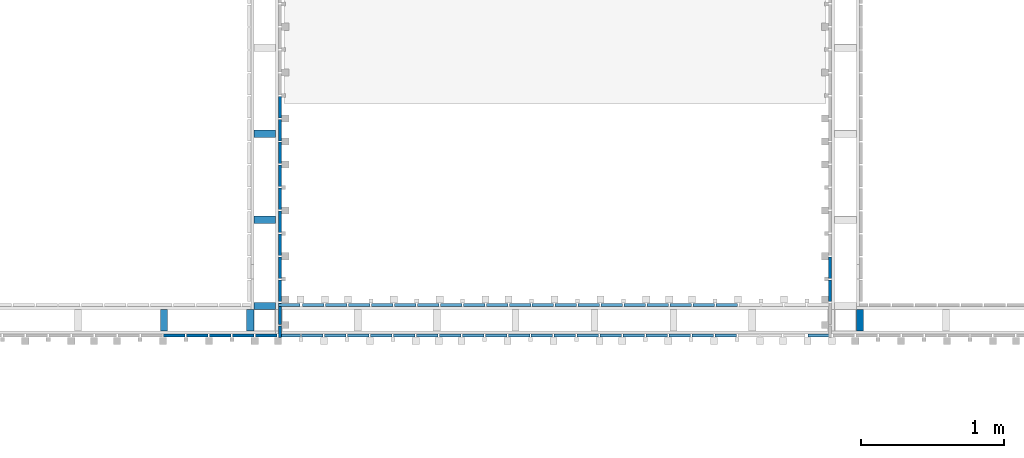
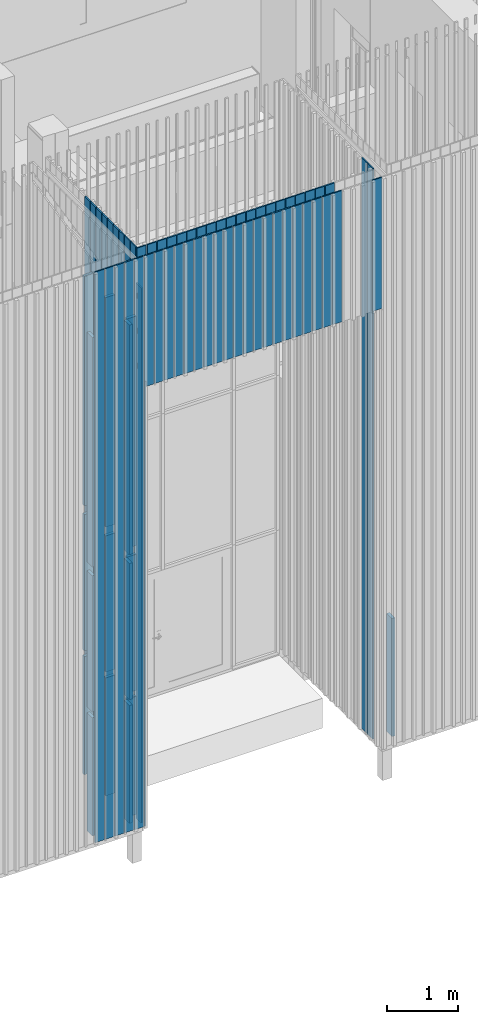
# One storey, part 140 of 390: 75 walls.
"""IFC2X3 building model written with IfcOpenShell, lengths in millimetres."""

from ifc_helpers import new_model, entity, si_unit, converted_unit, derived_unit, money_unit, direction, frame, origin_with_axes, place, context, subcontext, project, spatial, faceted_brep, material, type_object, element, save


model = new_model("IFC2X3")

# Units and contexts
model_context = context("Model", 3, precision=1e-05, world=origin_with_axes(), true_north=direction((0.0, 1.0)))
body_context = subcontext(model_context, "Body", "Model", "MODEL_VIEW")
ifc_project = project(units=[si_unit("LENGTHUNIT", "METRE", prefix="MILLI"), si_unit("AREAUNIT", "SQUARE_METRE"), si_unit("VOLUMEUNIT", "CUBIC_METRE"), converted_unit("PLANEANGLEUNIT", "DEGREE", entity("IfcPlaneAngleMeasure", 0.0174532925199), si_unit("PLANEANGLEUNIT", "RADIAN"), dimensions=[0, 0, 0, 0, 0, 0, 0]), si_unit("SOLIDANGLEUNIT", "STERADIAN"), money_unit("EUR"), converted_unit("TIMEUNIT", "Year", entity("IfcTimeMeasure", 31556926.0), si_unit("TIMEUNIT", "SECOND"), dimensions=[0, 0, 1, 0, 0, 0, 0]), si_unit("MASSUNIT", "GRAM", prefix="KILO"), si_unit("THERMODYNAMICTEMPERATUREUNIT", "DEGREE_CELSIUS"), si_unit("LUMINOUSINTENSITYUNIT", "LUMEN"), si_unit("ENERGYUNIT", "JOULE", prefix="MEGA"), derived_unit("THERMALCONDUCTANCEUNIT", [(si_unit("POWERUNIT", "WATT"), 1), (si_unit("LENGTHUNIT", "METRE"), -1), (si_unit("THERMODYNAMICTEMPERATUREUNIT", "KELVIN"), -1)]), derived_unit("SPECIFICHEATCAPACITYUNIT", [(si_unit("ENERGYUNIT", "JOULE"), 1), (si_unit("MASSUNIT", "GRAM", prefix="KILO"), -1), (si_unit("THERMODYNAMICTEMPERATUREUNIT", "KELVIN"), -1)]), derived_unit("MASSDENSITYUNIT", [(si_unit("MASSUNIT", "GRAM", prefix="KILO"), 1), (si_unit("VOLUMEUNIT", "CUBIC_METRE"), -1)])], contexts=[model_context])

# Site, building, storey
site_placement = place(None, origin_with_axes())
site = spatial("IfcSite", under=ifc_project, at=site_placement, Name="Site", CompositionType="ELEMENT")
building_placement = place(site_placement, origin_with_axes())
building = spatial("IfcBuilding", under=site, at=building_placement, Name="Building", CompositionType="ELEMENT")
storey_placement = place(building_placement, origin_with_axes())
storey = spatial("IfcBuildingStorey", under=building, at=storey_placement, Name="1 korrus", CompositionType="ELEMENT", Elevation=0.0)

# Walls
ifc_material = material(Name="Site specified")
wall_type = type_object("IfcWallType", Name="Puitfassaadi ribistik", PredefinedType="NOTDEFINED")
wall_1_placement = place(storey_placement, frame((132908.000037, 42805.0000099, 100.000000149), z_axis=(0.0, 0.0, 1.0), x_axis=(0.0, 1.0, 0.0)))
element("IfcWall", 1, at=wall_1_placement, inside=storey, type_object=wall_type, material=ifc_material, Name="Site specified", context=body_context, shape_type="Brep", body=[
    faceted_brep([(75.0, -11.0000000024, 9764.99999985), (-75.0, -11.0000000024, 9764.99999985), (-75.0, -11.0000000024, 0.0), (75.0, -11.0000000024, 0.0), (75.0, 11.0000000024, 9764.99999985), (-75.0, 11.0000000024, 9764.99999985), (-75.0, 11.0000000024, 0.0), (75.0, 11.0000000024, 0.0)], [[[0, 1, 2, 3]], [[4, 5, 1, 0]], [[1, 5, 6, 2]], [[7, 3, 2, 6]], [[4, 0, 3, 7]], [[5, 4, 7, 6]]]),
])
wall_2_placement = place(storey_placement, frame((133115.000037, 42599.0000099, 200.000000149), z_axis=(0.0, 0.0, 1.0), x_axis=(-1.0, 0.0, 0.0)))
element("IfcWall", 2, at=wall_2_placement, inside=storey, type_object=wall_type, material=ifc_material, Name="Site specified", context=body_context, shape_type="Brep", body=[
    faceted_brep([(25.0, -74.9999999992, 2019.99999987), (-25.0, -74.9999999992, 2019.99999987), (-25.0, -74.9999999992, 0.0), (25.0, -74.9999999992, 0.0), (25.0, 74.9999999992, 2019.99999987), (-25.0, 74.9999999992, 2019.99999987), (-25.0, 74.9999999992, 0.0), (25.0, 74.9999999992, 0.0)], [[[0, 1, 2, 3]], [[4, 5, 1, 0]], [[1, 5, 6, 2]], [[7, 3, 2, 6]], [[4, 0, 3, 7]], [[5, 4, 7, 6]]]),
])
wall_3_placement = place(storey_placement, frame((132908.000037, 42965.0000099, 100.000000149), z_axis=(0.0, 0.0, 1.0), x_axis=(0.0, 1.0, 0.0)))
element("IfcWall", 3, at=wall_3_placement, inside=storey, type_object=wall_type, material=ifc_material, Name="Site specified", context=body_context, shape_type="Brep", body=[
    faceted_brep([(75.0, -11.0000000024, 9764.99999985), (-75.0, -11.0000000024, 9764.99999985), (-75.0, -11.0000000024, 0.0), (75.0, -11.0000000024, 0.0), (75.0, 11.0000000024, 9764.99999985), (-75.0, 11.0000000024, 9764.99999985), (-75.0, 11.0000000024, 0.0), (75.0, 11.0000000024, 0.0)], [[[0, 1, 2, 3]], [[4, 5, 1, 0]], [[1, 5, 6, 2]], [[7, 3, 2, 6]], [[4, 0, 3, 7]], [[5, 4, 7, 6]]]),
])
for number, where, z_axis, x_axis, name in (
    (4, (131858.999993, 42492.0000615, 7620.0), (0.0, 0.0, 1.0), (-1.0, 0.0, 0.0), "Site specified"),
    (5, (131698.999993, 42492.0000615, 7620.0), (0.0, 0.0, 1.0), (-1.0, 0.0, 0.0), "Site specified"),
    (6, (132178.999993, 42492.000054, 7620.0), (0.0, 0.0, 1.0), (-1.0, 0.0, 0.0), "Site specified"),
    (7, (132828.999993, 42492.0000389, 7620.0), (0.0, 0.0, 1.0), (-1.0, 0.0, 0.0), "Site specified"),
):
    element("IfcWall", number, at=place(storey_placement, frame(where, z_axis=z_axis, x_axis=x_axis)), inside=storey, type_object=wall_type, material=ifc_material, Name=name, context=body_context, shape_type="Brep", body=[
        faceted_brep([(75.0, -11.0000000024, 2245.0), (-75.0, -11.0000000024, 2245.0), (-75.0, -11.0000000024, 0.0), (75.0, -11.0000000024, 0.0), (75.0, 11.0000000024, 2245.0), (-75.0, 11.0000000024, 2245.0), (-75.0, 11.0000000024, 0.0), (75.0, 11.0000000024, 0.0)], [[[0, 1, 2, 3]], [[4, 5, 1, 0]], [[1, 5, 6, 2]], [[7, 3, 2, 6]], [[4, 0, 3, 7]], [[5, 4, 7, 6]]]),
    ])
wall_4_placement = place(storey_placement, frame((128964.999993, 42699.000034, 4800.00000001), z_axis=(0.0, 0.0, 1.0), x_axis=(0.0, 1.0, 0.0)))
element("IfcWall", 8, at=wall_4_placement, inside=storey, type_object=wall_type, material=ifc_material, Name="Site specified", context=body_context, shape_type="Brep", body=[
    faceted_brep([(25.0, -74.9999999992, 3927.99999761), (-25.0, -74.9999999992, 3927.99999761), (-25.0, -74.9999999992, 0.0), (25.0, -74.9999999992, 0.0), (25.0, 74.9999999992, 3927.99999761), (-25.0, 74.9999999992, 3927.99999761), (-25.0, 74.9999999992, 0.0), (25.0, 74.9999999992, 0.0)], [[[0, 1, 2, 3]], [[4, 5, 1, 0]], [[1, 5, 6, 2]], [[7, 3, 2, 6]], [[4, 0, 3, 7]], [[5, 4, 7, 6]]]),
])
wall_5_placement = place(storey_placement, frame((128964.999994, 43299.0000337, 200.000000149), z_axis=(0.0, 0.0, 1.0), x_axis=(0.0, 1.0, 0.0)))
element("IfcWall", 9, at=wall_5_placement, inside=storey, type_object=wall_type, material=ifc_material, Name="Site specified", context=body_context, shape_type="Brep", body=[
    faceted_brep([(25.0, -74.9999999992, 2019.99999987), (-25.0, -74.9999999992, 2019.99999987), (-25.0, -74.9999999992, 0.0), (25.0, -74.9999999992, 0.0), (25.0, 74.9999999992, 2019.99999987), (-25.0, 74.9999999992, 2019.99999987), (-25.0, 74.9999999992, 0.0), (25.0, 74.9999999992, 0.0)], [[[0, 1, 2, 3]], [[4, 5, 1, 0]], [[1, 5, 6, 2]], [[7, 3, 2, 6]], [[4, 0, 3, 7]], [[5, 4, 7, 6]]]),
])
wall_6_placement = place(storey_placement, frame((128964.999994, 43299.0000337, 2320.00000001), z_axis=(0.0, 0.0, 1.0), x_axis=(0.0, 1.0, 0.0)))
element("IfcWall", 10, at=wall_6_placement, inside=storey, type_object=wall_type, material=ifc_material, Name="Site specified", context=body_context, shape_type="Brep", body=[
    faceted_brep([(25.0, -74.9999999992, 2330.0), (-25.0, -74.9999999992, 2330.0), (-25.0, -74.9999999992, 0.0), (25.0, -74.9999999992, 0.0), (25.0, 74.9999999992, 2330.0), (-25.0, 74.9999999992, 2330.0), (-25.0, 74.9999999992, 0.0), (25.0, 74.9999999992, 0.0)], [[[0, 1, 2, 3]], [[4, 5, 1, 0]], [[1, 5, 6, 2]], [[7, 3, 2, 6]], [[4, 0, 3, 7]], [[5, 4, 7, 6]]]),
])
wall_7_placement = place(storey_placement, frame((128964.999994, 43299.0000337, 4800.00000001), z_axis=(0.0, 0.0, 1.0), x_axis=(0.0, 1.0, 0.0)))
element("IfcWall", 11, at=wall_7_placement, inside=storey, type_object=wall_type, material=ifc_material, Name="Site specified", context=body_context, shape_type="Brep", body=[
    faceted_brep([(25.0, -74.9999999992, 3927.99999761), (-25.0, -74.9999999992, 3927.99999761), (-25.0, -74.9999999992, 0.0), (25.0, -74.9999999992, 0.0), (25.0, 74.9999999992, 3927.99999761), (-25.0, 74.9999999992, 3927.99999761), (-25.0, 74.9999999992, 0.0), (25.0, 74.9999999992, 0.0)], [[[0, 1, 2, 3]], [[4, 5, 1, 0]], [[1, 5, 6, 2]], [[7, 3, 2, 6]], [[4, 0, 3, 7]], [[5, 4, 7, 6]]]),
])
wall_8_placement = place(storey_placement, frame((128964.999994, 43899.0000337, 200.000000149), z_axis=(0.0, 0.0, 1.0), x_axis=(0.0, 1.0, 0.0)))
element("IfcWall", 12, at=wall_8_placement, inside=storey, type_object=wall_type, material=ifc_material, Name="Site specified", context=body_context, shape_type="Brep", body=[
    faceted_brep([(25.0, -74.9999999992, 2019.99999987), (-25.0, -74.9999999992, 2019.99999987), (-25.0, -74.9999999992, 0.0), (25.0, -74.9999999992, 0.0), (25.0, 74.9999999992, 2019.99999987), (-25.0, 74.9999999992, 2019.99999987), (-25.0, 74.9999999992, 0.0), (25.0, 74.9999999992, 0.0)], [[[0, 1, 2, 3]], [[4, 5, 1, 0]], [[1, 5, 6, 2]], [[7, 3, 2, 6]], [[4, 0, 3, 7]], [[5, 4, 7, 6]]]),
])
wall_9_placement = place(storey_placement, frame((128964.999994, 43899.0000337, 2320.00000001), z_axis=(0.0, 0.0, 1.0), x_axis=(0.0, 1.0, 0.0)))
element("IfcWall", 13, at=wall_9_placement, inside=storey, type_object=wall_type, material=ifc_material, Name="Site specified", context=body_context, shape_type="Brep", body=[
    faceted_brep([(25.0, -74.9999999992, 2330.0), (-25.0, -74.9999999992, 2330.0), (-25.0, -74.9999999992, 0.0), (25.0, -74.9999999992, 0.0), (25.0, 74.9999999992, 2330.0), (-25.0, 74.9999999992, 2330.0), (-25.0, 74.9999999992, 0.0), (25.0, 74.9999999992, 0.0)], [[[0, 1, 2, 3]], [[4, 5, 1, 0]], [[1, 5, 6, 2]], [[7, 3, 2, 6]], [[4, 0, 3, 7]], [[5, 4, 7, 6]]]),
])
wall_10_placement = place(storey_placement, frame((128964.999994, 43899.0000337, 4800.00000001), z_axis=(0.0, 0.0, 1.0), x_axis=(0.0, 1.0, 0.0)))
element("IfcWall", 14, at=wall_10_placement, inside=storey, type_object=wall_type, material=ifc_material, Name="Site specified", context=body_context, shape_type="Brep", body=[
    faceted_brep([(25.0, -74.9999999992, 3927.99999761), (-25.0, -74.9999999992, 3927.99999761), (-25.0, -74.9999999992, 0.0), (25.0, -74.9999999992, 0.0), (25.0, 74.9999999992, 3927.99999761), (-25.0, 74.9999999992, 3927.99999761), (-25.0, 74.9999999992, 0.0), (25.0, 74.9999999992, 0.0)], [[[0, 1, 2, 3]], [[4, 5, 1, 0]], [[1, 5, 6, 2]], [[7, 3, 2, 6]], [[4, 0, 3, 7]], [[5, 4, 7, 6]]]),
])
wall_11_placement = place(storey_placement, frame((128264.999994, 42599.0000344, 200.000000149), z_axis=(0.0, 0.0, 1.0), x_axis=(-1.0, 0.0, 0.0)))
element("IfcWall", 15, at=wall_11_placement, inside=storey, type_object=wall_type, material=ifc_material, Name="Site specified", context=body_context, shape_type="Brep", body=[
    faceted_brep([(25.0, -74.9999999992, 2019.99999987), (-25.0, -74.9999999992, 2019.99999987), (-25.0, -74.9999999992, 0.0), (25.0, -74.9999999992, 0.0), (25.0, 74.9999999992, 2019.99999987), (-25.0, 74.9999999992, 2019.99999987), (-25.0, 74.9999999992, 0.0), (25.0, 74.9999999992, 0.0)], [[[0, 1, 2, 3]], [[4, 5, 1, 0]], [[1, 5, 6, 2]], [[7, 3, 2, 6]], [[4, 0, 3, 7]], [[5, 4, 7, 6]]]),
])
wall_12_placement = place(storey_placement, frame((128264.999994, 42599.0000344, 2320.00000001), z_axis=(0.0, 0.0, 1.0), x_axis=(-1.0, 0.0, 0.0)))
element("IfcWall", 16, at=wall_12_placement, inside=storey, type_object=wall_type, material=ifc_material, Name="Site specified", context=body_context, shape_type="Brep", body=[
    faceted_brep([(25.0, -74.9999999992, 2330.0), (-25.0, -74.9999999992, 2330.0), (-25.0, -74.9999999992, 0.0), (25.0, -74.9999999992, 0.0), (25.0, 74.9999999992, 2330.0), (-25.0, 74.9999999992, 2330.0), (-25.0, 74.9999999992, 0.0), (25.0, 74.9999999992, 0.0)], [[[0, 1, 2, 3]], [[4, 5, 1, 0]], [[1, 5, 6, 2]], [[7, 3, 2, 6]], [[4, 0, 3, 7]], [[5, 4, 7, 6]]]),
])
wall_13_placement = place(storey_placement, frame((128264.999994, 42599.0000344, 4800.00000001), z_axis=(0.0, 0.0, 1.0), x_axis=(-1.0, 0.0, 0.0)))
element("IfcWall", 17, at=wall_13_placement, inside=storey, type_object=wall_type, material=ifc_material, Name="Site specified", context=body_context, shape_type="Brep", body=[
    faceted_brep([(25.0, -74.9999999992, 3927.99999761), (-25.0, -74.9999999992, 3927.99999761), (-25.0, -74.9999999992, 0.0), (25.0, -74.9999999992, 0.0), (25.0, 74.9999999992, 3927.99999761), (-25.0, 74.9999999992, 3927.99999761), (-25.0, 74.9999999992, 0.0), (25.0, 74.9999999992, 0.0)], [[[0, 1, 2, 3]], [[4, 5, 1, 0]], [[1, 5, 6, 2]], [[7, 3, 2, 6]], [[4, 0, 3, 7]], [[5, 4, 7, 6]]]),
])
wall_14_placement = place(storey_placement, frame((128864.999994, 42599.000034, 200.000000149), z_axis=(0.0, 0.0, 1.0), x_axis=(-1.0, 0.0, 0.0)))
element("IfcWall", 18, at=wall_14_placement, inside=storey, type_object=wall_type, material=ifc_material, Name="Site specified", context=body_context, shape_type="Brep", body=[
    faceted_brep([(25.0, -74.9999999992, 2019.99999987), (-25.0, -74.9999999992, 2019.99999987), (-25.0, -74.9999999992, 0.0), (25.0, -74.9999999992, 0.0), (25.0, 74.9999999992, 2019.99999987), (-25.0, 74.9999999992, 2019.99999987), (-25.0, 74.9999999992, 0.0), (25.0, 74.9999999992, 0.0)], [[[0, 1, 2, 3]], [[4, 5, 1, 0]], [[1, 5, 6, 2]], [[7, 3, 2, 6]], [[4, 0, 3, 7]], [[5, 4, 7, 6]]]),
])
wall_15_placement = place(storey_placement, frame((128864.999994, 42599.000034, 2320.00000001), z_axis=(0.0, 0.0, 1.0), x_axis=(-1.0, 0.0, 0.0)))
element("IfcWall", 19, at=wall_15_placement, inside=storey, type_object=wall_type, material=ifc_material, Name="Site specified", context=body_context, shape_type="Brep", body=[
    faceted_brep([(25.0, -74.9999999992, 2330.0), (-25.0, -74.9999999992, 2330.0), (-25.0, -74.9999999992, 0.0), (25.0, -74.9999999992, 0.0), (25.0, 74.9999999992, 2330.0), (-25.0, 74.9999999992, 2330.0), (-25.0, 74.9999999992, 0.0), (25.0, 74.9999999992, 0.0)], [[[0, 1, 2, 3]], [[4, 5, 1, 0]], [[1, 5, 6, 2]], [[7, 3, 2, 6]], [[4, 0, 3, 7]], [[5, 4, 7, 6]]]),
])
wall_16_placement = place(storey_placement, frame((128864.999994, 42599.000034, 4800.00000001), z_axis=(0.0, 0.0, 1.0), x_axis=(-1.0, 0.0, 0.0)))
element("IfcWall", 20, at=wall_16_placement, inside=storey, type_object=wall_type, material=ifc_material, Name="Site specified", context=body_context, shape_type="Brep", body=[
    faceted_brep([(25.0, -74.9999999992, 3927.99999761), (-25.0, -74.9999999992, 3927.99999761), (-25.0, -74.9999999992, 0.0), (25.0, -74.9999999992, 0.0), (25.0, 74.9999999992, 3927.99999761), (-25.0, 74.9999999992, 3927.99999761), (-25.0, 74.9999999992, 0.0), (25.0, 74.9999999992, 0.0)], [[[0, 1, 2, 3]], [[4, 5, 1, 0]], [[1, 5, 6, 2]], [[7, 3, 2, 6]], [[4, 0, 3, 7]], [[5, 4, 7, 6]]]),
])
for number, where, z_axis, x_axis, name in (
    (21, (130745.999993, 42706.0000526, 7620.00000604), (0.0, 0.0, 1.0), (1.0, 0.0, 0.0), "Site specified"),
    (22, (130905.999993, 42706.0000526, 7620.00000604), (0.0, 0.0, 1.0), (1.0, 0.0, 0.0), "Site specified"),
    (23, (131225.999993, 42706.0000526, 7620.00000604), (0.0, 0.0, 1.0), (1.0, 0.0, 0.0), "Site specified"),
    (24, (131065.999993, 42706.0000526, 7620.00000604), (0.0, 0.0, 1.0), (1.0, 0.0, 0.0), "Site specified"),
    (25, (131385.999993, 42706.0000526, 7620.00000604), (0.0, 0.0, 1.0), (1.0, 0.0, 0.0), "Site specified"),
):
    element("IfcWall", number, at=place(storey_placement, frame(where, z_axis=z_axis, x_axis=x_axis)), inside=storey, type_object=wall_type, material=ifc_material, Name=name, context=body_context, shape_type="Brep", body=[
        faceted_brep([(75.0000000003, -11.0, 2245.0), (-74.9999999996, -11.0000000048, 2245.0), (-74.9999999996, -11.0000000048, 0.0), (75.0000000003, -11.0, 0.0), (74.9999999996, 11.0000000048, 2245.0), (-75.0000000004, 11.0, 2245.0), (-75.0000000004, 11.0, 0.0), (74.9999999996, 11.0000000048, 0.0)], [[[0, 1, 2, 3]], [[4, 5, 1, 0]], [[1, 5, 6, 2]], [[7, 3, 2, 6]], [[4, 0, 3, 7]], [[5, 4, 7, 6]]]),
    ])
wall_17_placement = place(storey_placement, frame((128964.999993, 42699.0000105, 200.000000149), z_axis=(0.0, 0.0, 1.0), x_axis=(0.0, 1.0, 0.0)))
element("IfcWall", 26, at=wall_17_placement, inside=storey, type_object=wall_type, material=ifc_material, Name="Site specified", context=body_context, shape_type="Brep", body=[
    faceted_brep([(25.0, -74.9999999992, 2019.99999987), (-25.0, -74.9999999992, 2019.99999987), (-25.0, -74.9999999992, 0.0), (25.0, -74.9999999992, 0.0), (25.0, 74.9999999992, 2019.99999987), (-25.0, 74.9999999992, 2019.99999987), (-25.0, 74.9999999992, 0.0), (25.0, 74.9999999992, 0.0)], [[[0, 1, 2, 3]], [[4, 5, 1, 0]], [[1, 5, 6, 2]], [[7, 3, 2, 6]], [[4, 0, 3, 7]], [[5, 4, 7, 6]]]),
])
wall_18_placement = place(storey_placement, frame((132018.999993, 42492.000054, 7620.0), z_axis=(0.0, 0.0, 1.0), x_axis=(-1.0, 0.0, 0.0)))
element("IfcWall", 27, at=wall_18_placement, inside=storey, type_object=wall_type, material=ifc_material, Name="Site specified", context=body_context, shape_type="Brep", body=[
    faceted_brep([(75.0, -11.0000000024, 2245.0), (-75.0, -11.0000000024, 2245.0), (-75.0, -11.0000000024, 0.0), (75.0, -11.0000000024, 0.0), (75.0, 11.0000000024, 2245.0), (-75.0, 11.0000000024, 2245.0), (-75.0, 11.0000000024, 0.0), (75.0, 11.0000000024, 0.0)], [[[0, 1, 2, 3]], [[4, 5, 1, 0]], [[1, 5, 6, 2]], [[7, 3, 2, 6]], [[4, 0, 3, 7]], [[5, 4, 7, 6]]]),
])
wall_19_placement = place(storey_placement, frame((128964.999994, 42699.000034, 2320.00000001), z_axis=(0.0, 0.0, 1.0), x_axis=(0.0, 1.0, 0.0)))
element("IfcWall", 28, at=wall_19_placement, inside=storey, type_object=wall_type, material=ifc_material, Name="Site specified", context=body_context, shape_type="Brep", body=[
    faceted_brep([(25.0, -74.9999999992, 2330.0), (-25.0, -74.9999999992, 2330.0), (-25.0, -74.9999999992, 0.0), (25.0, -74.9999999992, 0.0), (25.0, 74.9999999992, 2330.0), (-25.0, 74.9999999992, 2330.0), (-25.0, 74.9999999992, 0.0), (25.0, 74.9999999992, 0.0)], [[[0, 1, 2, 3]], [[4, 5, 1, 0]], [[1, 5, 6, 2]], [[7, 3, 2, 6]], [[4, 0, 3, 7]], [[5, 4, 7, 6]]]),
])
for number, where, z_axis, x_axis, name in (
    (29, (131545.999993, 42706.0000451, 7620.00000604), (0.0, 0.0, 1.0), (1.0, 0.0, 0.0), "Site specified"),
    (30, (131705.999993, 42706.0000451, 7620.00000604), (0.0, 0.0, 1.0), (1.0, 0.0, 0.0), "Site specified"),
    (31, (132025.999993, 42706.0000376, 7620.00000604), (0.0, 0.0, 1.0), (1.0, 0.0, 0.0), "Site specified"),
    (32, (131865.999993, 42706.0000376, 7620.00000604), (0.0, 0.0, 1.0), (1.0, 0.0, 0.0), "Site specified"),
    (33, (132185.999993, 42706.0000301, 7620.00000604), (0.0, 0.0, 1.0), (1.0, 0.0, 0.0), "Site specified"),
):
    element("IfcWall", number, at=place(storey_placement, frame(where, z_axis=z_axis, x_axis=x_axis)), inside=storey, type_object=wall_type, material=ifc_material, Name=name, context=body_context, shape_type="Brep", body=[
        faceted_brep([(75.0000000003, -11.0, 2245.0), (-74.9999999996, -11.0000000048, 2245.0), (-74.9999999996, -11.0000000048, 0.0), (75.0000000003, -11.0, 0.0), (74.9999999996, 11.0000000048, 2245.0), (-75.0000000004, 11.0, 2245.0), (-75.0000000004, 11.0, 0.0), (74.9999999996, 11.0000000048, 0.0)], [[[0, 1, 2, 3]], [[4, 5, 1, 0]], [[1, 5, 6, 2]], [[7, 3, 2, 6]], [[4, 0, 3, 7]], [[5, 4, 7, 6]]]),
    ])
for number, where, z_axis, x_axis, name in (
    (34, (131218.999994, 42491.9999965, 7620.0), (0.0, 0.0, 1.0), (-1.0, 0.0, 0.0), "Site specified"),
    (35, (131378.999994, 42491.9999965, 7620.0), (0.0, 0.0, 1.0), (-1.0, 0.0, 0.0), "Site specified"),
    (36, (129298.999994, 42492.0000265, 7620.0), (0.0, 0.0, 1.0), (-1.0, 0.0, 0.0), "Site specified"),
    (37, (129458.999994, 42492.0000265, 7620.0), (0.0, 0.0, 1.0), (-1.0, 0.0, 0.0), "Site specified"),
    (38, (129618.999994, 42492.000019, 7620.0), (0.0, 0.0, 1.0), (-1.0, 0.0, 0.0), "Site specified"),
    (39, (129138.999994, 42492.000034, 7620.0), (0.0, 0.0, 1.0), (-1.0, 0.0, 0.0), "Site specified"),
    (40, (129778.999994, 42492.000019, 7620.0), (0.0, 0.0, 1.0), (-1.0, 0.0, 0.0), "Site specified"),
    (41, (129938.999994, 42492.0000115, 7620.0), (0.0, 0.0, 1.0), (-1.0, 0.0, 0.0), "Site specified"),
    (42, (130098.999994, 42492.0000115, 7620.0), (0.0, 0.0, 1.0), (-1.0, 0.0, 0.0), "Site specified"),
    (43, (130258.999994, 42492.000004, 7620.0), (0.0, 0.0, 1.0), (-1.0, 0.0, 0.0), "Site specified"),
    (44, (131058.999994, 42491.9999965, 7620.0), (0.0, 0.0, 1.0), (-1.0, 0.0, 0.0), "Site specified"),
    (45, (130898.999994, 42491.9999965, 7620.0), (0.0, 0.0, 1.0), (-1.0, 0.0, 0.0), "Site specified"),
    (46, (130418.999994, 42492.000004, 7620.0), (0.0, 0.0, 1.0), (-1.0, 0.0, 0.0), "Site specified"),
    (47, (130578.999994, 42491.9999965, 7620.0), (0.0, 0.0, 1.0), (-1.0, 0.0, 0.0), "Site specified"),
    (48, (130738.999994, 42491.9999965, 7620.0), (0.0, 0.0, 1.0), (-1.0, 0.0, 0.0), "Site specified"),
    (49, (131538.999993, 42492.000069, 7620.0), (0.0, 0.0, 1.0), (-1.0, 0.0, 0.0), "Site specified"),
):
    element("IfcWall", number, at=place(storey_placement, frame(where, z_axis=z_axis, x_axis=x_axis)), inside=storey, type_object=wall_type, material=ifc_material, Name=name, context=body_context, shape_type="Brep", body=[
        faceted_brep([(75.0, -11.0000000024, 2245.0), (-75.0, -11.0000000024, 2245.0), (-75.0, -11.0000000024, 0.0), (75.0, -11.0000000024, 0.0), (75.0, 11.0000000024, 2245.0), (-75.0, 11.0000000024, 2245.0), (-75.0, 11.0000000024, 0.0), (75.0, 11.0000000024, 0.0)], [[[0, 1, 2, 3]], [[4, 5, 1, 0]], [[1, 5, 6, 2]], [[7, 3, 2, 6]], [[4, 0, 3, 7]], [[5, 4, 7, 6]]]),
    ])
wall_20_placement = place(storey_placement, frame((129071.999994, 42645.0000337, 100.000000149), z_axis=(0.0, 0.0, 1.0), x_axis=(0.0, 1.0, 0.0)))
element("IfcWall", 50, at=wall_20_placement, inside=storey, type_object=wall_type, material=ifc_material, Name="Site specified", context=body_context, shape_type="Brep", body=[
    faceted_brep([(-75.0, 11.0000000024, 9160.00000589), (75.0, 11.0000000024, 9160.00000589), (75.0, 11.0000000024, 0.0), (-75.0, 11.0000000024, 0.0), (28.9999765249, 11.0000000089, 9010.00000589), (28.9999765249, 11.0000000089, 8915.00000589), (49.9999765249, 11.0000000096, 8915.00000589), (49.9999765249, 11.0000000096, 9010.00000589), (28.9999761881, 11.0000000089, 8410.00000589), (28.9999761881, 11.0000000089, 8315.00000589), (49.9999761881, 11.0000000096, 8315.00000589), (49.9999761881, 11.0000000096, 8410.00000589), (28.9999761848, 11.0000000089, 7810.00000589), (28.9999761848, 11.0000000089, 7715.00000589), (49.9999761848, 11.0000000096, 7715.00000589), (49.9999761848, 11.0000000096, 7810.00000589), (-75.0, -11.0000000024, 9160.00000589), (75.0, -11.0000000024, 9160.00000589), (75.0, -11.0000000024, 0.0), (-75.0, -11.0000000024, 0.0), (28.9999765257, -11.0000000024, 9010.00000589), (28.9999765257, -11.0000000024, 8915.00000589), (49.9999765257, -11.0000000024, 8915.00000589), (49.9999765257, -11.0000000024, 9010.00000589), (28.9999761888, -11.0000000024, 8410.00000589), (28.9999761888, -11.0000000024, 8315.00000589), (49.9999761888, -11.0000000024, 8315.00000589), (49.9999761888, -11.0000000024, 8410.00000589), (28.9999761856, -11.0000000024, 7810.00000589), (28.9999761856, -11.0000000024, 7715.00000589), (49.9999761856, -11.0000000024, 7715.00000589), (49.9999761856, -11.0000000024, 7810.00000589)], [[[0, 1, 2, 3], [4, 5, 6, 7], [8, 9, 10, 11], [12, 13, 14, 15]], [[1, 0, 16, 17]], [[1, 17, 18, 2]], [[2, 18, 19, 3]], [[16, 0, 3, 19]], [[4, 20, 21, 5]], [[5, 21, 22, 6]], [[6, 22, 23, 7]], [[7, 23, 20, 4]], [[8, 24, 25, 9]], [[9, 25, 26, 10]], [[10, 26, 27, 11]], [[11, 27, 24, 8]], [[12, 28, 29, 13]], [[13, 29, 30, 14]], [[14, 30, 31, 15]], [[15, 31, 28, 12]], [[17, 16, 19, 18], [22, 21, 20, 23], [26, 25, 24, 27], [30, 29, 28, 31]]]),
])
for number, where, z_axis, x_axis, name in (
    (51, (129071.999994, 42805.0000337, 100.000000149), (0.0, 0.0, 1.0), (0.0, 1.0, 0.0), "Site specified"),
    (52, (129071.999994, 42965.0000337, 100.000000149), (0.0, 0.0, 1.0), (0.0, 1.0, 0.0), "Site specified"),
    (53, (129071.999994, 43125.0000337, 100.000000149), (0.0, 0.0, 1.0), (0.0, 1.0, 0.0), "Site specified"),
):
    element("IfcWall", number, at=place(storey_placement, frame(where, z_axis=z_axis, x_axis=x_axis)), inside=storey, type_object=wall_type, material=ifc_material, Name=name, context=body_context, shape_type="Brep", body=[
        faceted_brep([(75.0, -11.0000000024, 9764.99999985), (-75.0, -11.0000000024, 9764.99999985), (-75.0, -11.0000000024, 0.0), (75.0, -11.0000000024, 0.0), (75.0, 11.0000000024, 9764.99999985), (-75.0, 11.0000000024, 9764.99999985), (-75.0, 11.0000000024, 0.0), (75.0, 11.0000000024, 0.0)], [[[0, 1, 2, 3]], [[4, 5, 1, 0]], [[1, 5, 6, 2]], [[7, 3, 2, 6]], [[4, 0, 3, 7]], [[5, 4, 7, 6]]]),
    ])
for number, where, z_axis, x_axis, name in (
    (54, (129135.999993, 42706.0000102, 7620.00000604), (0.0, 0.0, 1.0), (1.0, 0.0, 0.0), "Site specified"),
    (55, (129305.999993, 42706.0000102, 7620.00000604), (0.0, 0.0, 1.0), (1.0, 0.0, 0.0), "Site specified"),
    (56, (129465.999993, 42706.0000027, 7620.00000604), (0.0, 0.0, 1.0), (1.0, 0.0, 0.0), "Site specified"),
):
    element("IfcWall", number, at=place(storey_placement, frame(where, z_axis=z_axis, x_axis=x_axis)), inside=storey, type_object=wall_type, material=ifc_material, Name=name, context=body_context, shape_type="Brep", body=[
        faceted_brep([(75.0000000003, -11.0, 2245.0), (-74.9999999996, -11.0000000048, 2245.0), (-74.9999999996, -11.0000000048, 0.0), (75.0000000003, -11.0, 0.0), (74.9999999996, 11.0000000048, 2245.0), (-75.0000000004, 11.0, 2245.0), (-75.0000000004, 11.0, 0.0), (74.9999999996, 11.0000000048, 0.0)], [[[0, 1, 2, 3]], [[4, 5, 1, 0]], [[1, 5, 6, 2]], [[7, 3, 2, 6]], [[4, 0, 3, 7]], [[5, 4, 7, 6]]]),
    ])
wall_21_placement = place(storey_placement, frame((129071.999994, 43285.0000337, 100.000000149), z_axis=(0.0, 0.0, 1.0), x_axis=(0.0, 1.0, 0.0)))
element("IfcWall", 57, at=wall_21_placement, inside=storey, type_object=wall_type, material=ifc_material, Name="Site specified", context=body_context, shape_type="Brep", body=[
    faceted_brep([(75.0, -11.0000000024, 9764.99999985), (-75.0, -11.0000000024, 9764.99999985), (-75.0, -11.0000000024, 0.0), (75.0, -11.0000000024, 0.0), (75.0, 11.0000000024, 9764.99999985), (-75.0, 11.0000000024, 9764.99999985), (-75.0, 11.0000000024, 0.0), (75.0, 11.0000000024, 0.0)], [[[0, 1, 2, 3]], [[4, 5, 1, 0]], [[1, 5, 6, 2]], [[7, 3, 2, 6]], [[4, 0, 3, 7]], [[5, 4, 7, 6]]]),
])
for number, where, z_axis, x_axis, name in (
    (58, (130265.999993, 42705.9999877, 7620.00000604), (0.0, 0.0, 1.0), (1.0, 0.0, 0.0), "Site specified"),
    (59, (129625.999993, 42706.0000027, 7620.00000604), (0.0, 0.0, 1.0), (1.0, 0.0, 0.0), "Site specified"),
    (60, (129785.999993, 42705.9999952, 7620.00000604), (0.0, 0.0, 1.0), (1.0, 0.0, 0.0), "Site specified"),
    (61, (130425.999993, 42705.9999802, 7620.00000604), (0.0, 0.0, 1.0), (1.0, 0.0, 0.0), "Site specified"),
    (62, (129945.999993, 42705.9999952, 7620.00000604), (0.0, 0.0, 1.0), (1.0, 0.0, 0.0), "Site specified"),
):
    element("IfcWall", number, at=place(storey_placement, frame(where, z_axis=z_axis, x_axis=x_axis)), inside=storey, type_object=wall_type, material=ifc_material, Name=name, context=body_context, shape_type="Brep", body=[
        faceted_brep([(75.0000000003, -11.0, 2245.0), (-74.9999999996, -11.0000000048, 2245.0), (-74.9999999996, -11.0000000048, 0.0), (75.0000000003, -11.0, 0.0), (74.9999999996, 11.0000000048, 2245.0), (-75.0000000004, 11.0, 2245.0), (-75.0000000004, 11.0, 0.0), (74.9999999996, 11.0000000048, 0.0)], [[[0, 1, 2, 3]], [[4, 5, 1, 0]], [[1, 5, 6, 2]], [[7, 3, 2, 6]], [[4, 0, 3, 7]], [[5, 4, 7, 6]]]),
    ])
for number, where, z_axis, x_axis, name in (
    (63, (129071.999994, 43605.0000337, 100.000000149), (0.0, 0.0, 1.0), (0.0, 1.0, 0.0), "Site specified"),
    (64, (129071.999994, 43445.0000337, 100.000000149), (0.0, 0.0, 1.0), (0.0, 1.0, 0.0), "Site specified"),
    (65, (129071.999994, 44085.0000337, 100.000000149), (0.0, 0.0, 1.0), (0.0, 1.0, 0.0), "Site specified"),
):
    element("IfcWall", number, at=place(storey_placement, frame(where, z_axis=z_axis, x_axis=x_axis)), inside=storey, type_object=wall_type, material=ifc_material, Name=name, context=body_context, shape_type="Brep", body=[
        faceted_brep([(75.0, -11.0000000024, 9764.99999985), (-75.0, -11.0000000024, 9764.99999985), (-75.0, -11.0000000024, 0.0), (75.0, -11.0000000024, 0.0), (75.0, 11.0000000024, 9764.99999985), (-75.0, 11.0000000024, 9764.99999985), (-75.0, 11.0000000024, 0.0), (75.0, 11.0000000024, 0.0)], [[[0, 1, 2, 3]], [[4, 5, 1, 0]], [[1, 5, 6, 2]], [[7, 3, 2, 6]], [[4, 0, 3, 7]], [[5, 4, 7, 6]]]),
    ])
wall_22_placement = place(storey_placement, frame((130105.999993, 42705.9999877, 7620.00000604), z_axis=(0.0, 0.0, 1.0), x_axis=(1.0, 0.0, 0.0)))
element("IfcWall", 66, at=wall_22_placement, inside=storey, type_object=wall_type, material=ifc_material, Name="Site specified", context=body_context, shape_type="Brep", body=[
    faceted_brep([(75.0000000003, -11.0, 2245.0), (-74.9999999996, -11.0000000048, 2245.0), (-74.9999999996, -11.0000000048, 0.0), (75.0000000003, -11.0, 0.0), (74.9999999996, 11.0000000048, 2245.0), (-75.0000000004, 11.0, 2245.0), (-75.0000000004, 11.0, 0.0), (74.9999999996, 11.0000000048, 0.0)], [[[0, 1, 2, 3]], [[4, 5, 1, 0]], [[1, 5, 6, 2]], [[7, 3, 2, 6]], [[4, 0, 3, 7]], [[5, 4, 7, 6]]]),
])
for number, where, z_axis, x_axis, name in (
    (67, (129071.999994, 43765.0000337, 100.000000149), (0.0, 0.0, 1.0), (0.0, 1.0, 0.0), "Site specified"),
    (68, (129071.999994, 43925.0000337, 100.000000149), (0.0, 0.0, 1.0), (0.0, 1.0, 0.0), "Site specified"),
):
    element("IfcWall", number, at=place(storey_placement, frame(where, z_axis=z_axis, x_axis=x_axis)), inside=storey, type_object=wall_type, material=ifc_material, Name=name, context=body_context, shape_type="Brep", body=[
        faceted_brep([(75.0, -11.0000000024, 9764.99999985), (-75.0, -11.0000000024, 9764.99999985), (-75.0, -11.0000000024, 0.0), (75.0, -11.0000000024, 0.0), (75.0, 11.0000000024, 9764.99999985), (-75.0, 11.0000000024, 9764.99999985), (-75.0, 11.0000000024, 0.0), (75.0, 11.0000000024, 0.0)], [[[0, 1, 2, 3]], [[4, 5, 1, 0]], [[1, 5, 6, 2]], [[7, 3, 2, 6]], [[4, 0, 3, 7]], [[5, 4, 7, 6]]]),
    ])
wall_23_placement = place(storey_placement, frame((130585.999993, 42706.0000526, 7620.00000604), z_axis=(0.0, 0.0, 1.0), x_axis=(1.0, 0.0, 0.0)))
element("IfcWall", 69, at=wall_23_placement, inside=storey, type_object=wall_type, material=ifc_material, Name="Site specified", context=body_context, shape_type="Brep", body=[
    faceted_brep([(75.0000000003, -11.0, 2245.0), (-74.9999999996, -11.0000000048, 2245.0), (-74.9999999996, -11.0000000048, 0.0), (75.0000000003, -11.0, 0.0), (74.9999999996, 11.0000000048, 2245.0), (-75.0000000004, 11.0, 2245.0), (-75.0000000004, 11.0, 0.0), (74.9999999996, 11.0000000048, 0.0)], [[[0, 1, 2, 3]], [[4, 5, 1, 0]], [[1, 5, 6, 2]], [[7, 3, 2, 6]], [[4, 0, 3, 7]], [[5, 4, 7, 6]]]),
])
wall_24_placement = place(storey_placement, frame((129071.999994, 42519.9999938, 100.000000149), z_axis=(0.0, 0.0, 1.0), x_axis=(0.0, 1.0, 0.0)))
element("IfcWall", 70, at=wall_24_placement, inside=storey, type_object=wall_type, material=ifc_material, Name="Site specified", context=body_context, shape_type="Brep", body=[
    faceted_brep([(40.000039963, -11.0000000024, 7614.99999953), (-40.000039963, -11.0000000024, 7614.99999953), (-40.000039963, -11.0000000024, 0.0), (40.000039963, -11.0000000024, 0.0), (40.000039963, 11.0000000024, 7614.99999953), (-40.000039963, 11.0000000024, 7614.99999953), (-40.000039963, 11.0000000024, 0.0), (40.000039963, 11.0000000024, 0.0)], [[[0, 1, 2, 3]], [[4, 5, 1, 0]], [[1, 5, 6, 2]], [[7, 3, 2, 6]], [[4, 0, 3, 7]], [[5, 4, 7, 6]]]),
])
for number, where, z_axis, x_axis, name in (
    (71, (128336.999994, 42492.0000112, 100.000000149), (0.0, 0.0, 1.0), (-1.0, 0.0, 0.0), "Site specified"),
    (72, (128496.999994, 42492.0000187, 100.000000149), (0.0, 0.0, 1.0), (-1.0, 0.0, 0.0), "Site specified"),
    (73, (128656.999994, 42492.0000187, 100.000000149), (0.0, 0.0, 1.0), (-1.0, 0.0, 0.0), "Site specified"),
    (74, (128816.999994, 42492.0000262, 100.000000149), (0.0, 0.0, 1.0), (-1.0, 0.0, 0.0), "Site specified"),
    (75, (128976.999994, 42492.0000262, 100.000000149), (0.0, 0.0, 1.0), (-1.0, 0.0, 0.0), "Site specified"),
):
    element("IfcWall", number, at=place(storey_placement, frame(where, z_axis=z_axis, x_axis=x_axis)), inside=storey, type_object=wall_type, material=ifc_material, Name=name, context=body_context, shape_type="Brep", body=[
        faceted_brep([(75.0, -11.0000000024, 9764.99999985), (-75.0, -11.0000000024, 9764.99999985), (-75.0, -11.0000000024, 0.0), (75.0, -11.0000000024, 0.0), (75.0, 11.0000000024, 9764.99999985), (-75.0, 11.0000000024, 9764.99999985), (-75.0, 11.0000000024, 0.0), (75.0, 11.0000000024, 0.0)], [[[0, 1, 2, 3]], [[4, 5, 1, 0]], [[1, 5, 6, 2]], [[7, 3, 2, 6]], [[4, 0, 3, 7]], [[5, 4, 7, 6]]]),
    ])

save(model, "model.ifc")
